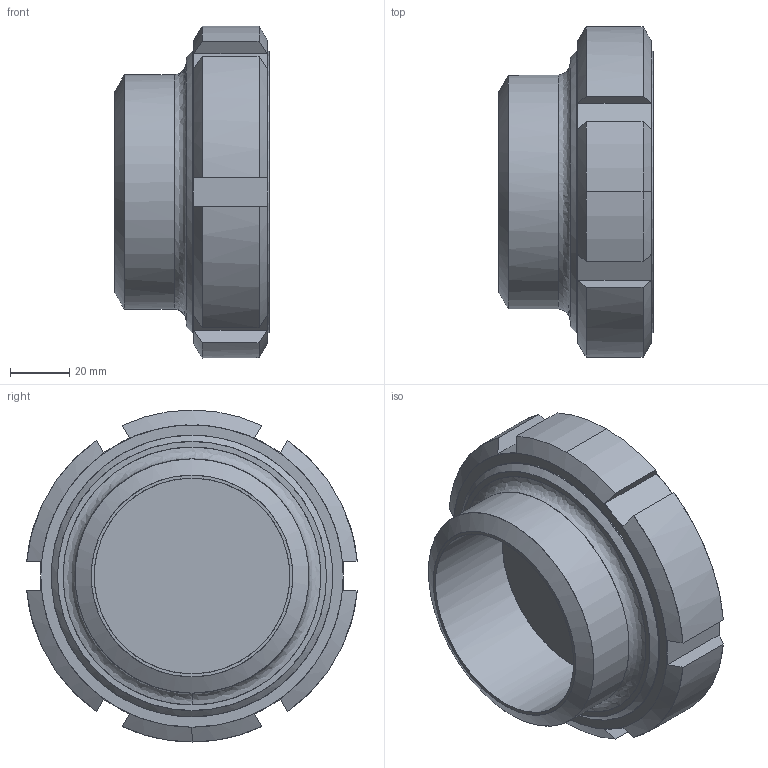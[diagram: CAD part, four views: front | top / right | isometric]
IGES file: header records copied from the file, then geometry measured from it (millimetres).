
Start section: C
Global section: file name: 0207.001.38_01.igs; native system: By Siemens PLM Incorporated; preprocessor: XPlus GENERIC/IGES 18.0.17; author: Author; organization: Title; date: 20160118.101554; units: millimetre
Bounding box: 52 x 111.55 x 112 mm (x, y, z)
Surface area: 79906.8 mm2 (no closed solid volume)
Topology: 0 solids, 0 shells, 79 faces, 426 edges, 426 vertices
Faces by surface type: bspline 79
